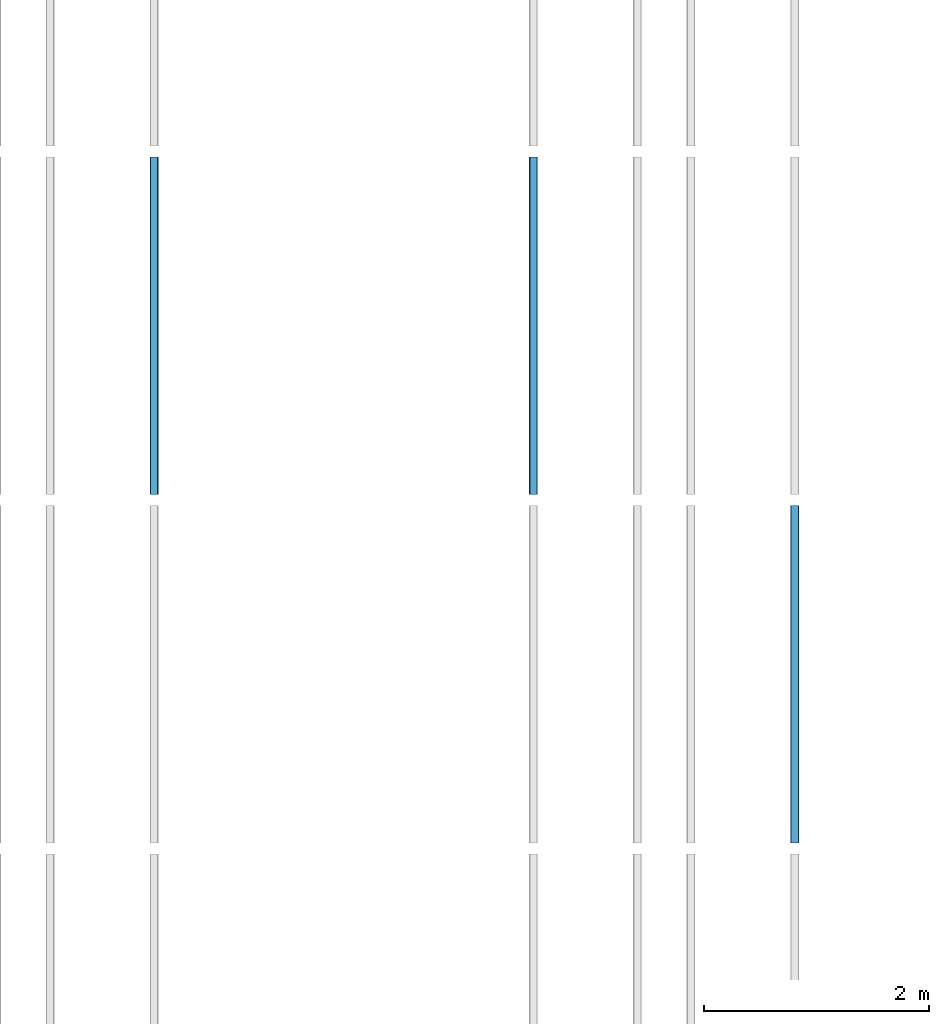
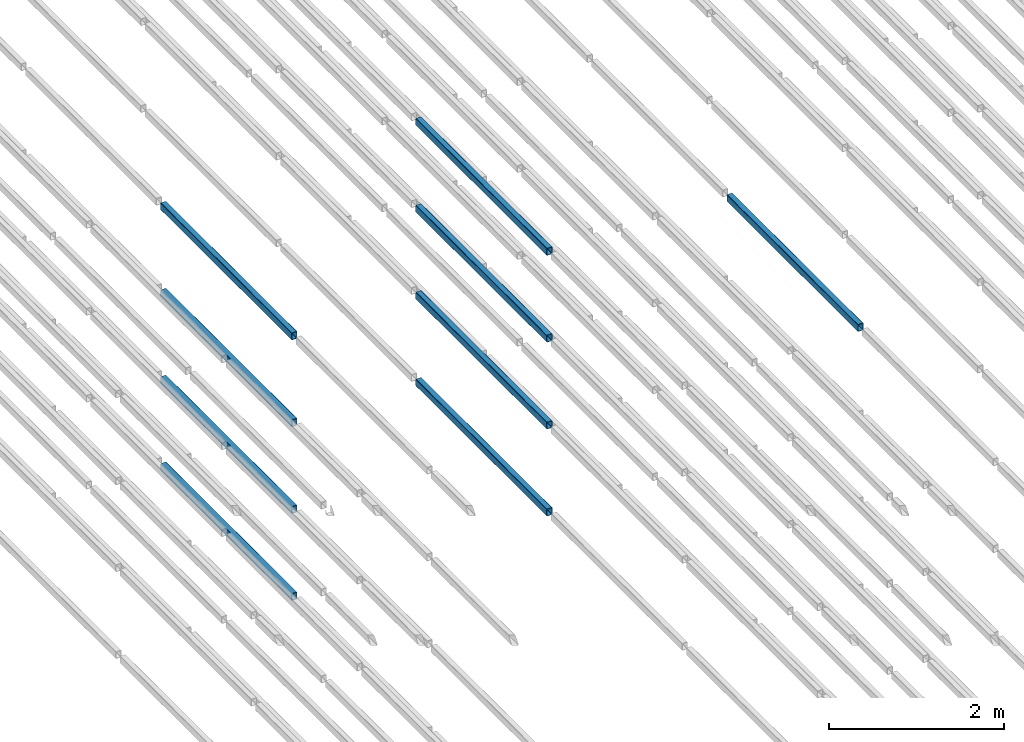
# One storey, part 54 of 290: 9 beams.
"""IFC2X3 building model written with IfcOpenShell, lengths in metres."""

from ifc_helpers import new_model, entity, si_unit, converted_unit, derived_unit, direction, frame, frame_2d, origin, place, context, subcontext, project, spatial, polyline, circle_curve, parameter, trimmed, segment, composite_curve, outline, extrude, material, type_object, element, save


model = new_model("IFC2X3")

# Units and contexts
model_context = context("Model", 3, precision=1e-05, world=origin(), true_north=direction((6.12303176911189e-17, 1.0)))
body_context = subcontext(model_context, "Body", "Model", "MODEL_VIEW")
ifc_project = project(units=[si_unit("LENGTHUNIT", "METRE"), si_unit("AREAUNIT", "SQUARE_METRE"), si_unit("VOLUMEUNIT", "CUBIC_METRE"), converted_unit("PLANEANGLEUNIT", "DEGREE", entity("IfcRatioMeasure", 0.0174532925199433), si_unit("PLANEANGLEUNIT", "RADIAN"), dimensions=[0, 0, 0, 0, 0, 0, 0]), si_unit("MASSUNIT", "GRAM", prefix="KILO"), derived_unit("MASSDENSITYUNIT", [(si_unit("MASSUNIT", "GRAM", prefix="KILO"), 1), (si_unit("LENGTHUNIT", "METRE"), -3)]), derived_unit("MOMENTOFINERTIAUNIT", [(si_unit("LENGTHUNIT", "METRE"), 4)]), si_unit("TIMEUNIT", "SECOND"), si_unit("FREQUENCYUNIT", "HERTZ"), si_unit("THERMODYNAMICTEMPERATUREUNIT", "DEGREE_CELSIUS"), derived_unit("THERMALTRANSMITTANCEUNIT", [(si_unit("MASSUNIT", "GRAM", prefix="KILO"), 1), (si_unit("THERMODYNAMICTEMPERATUREUNIT", "KELVIN"), -1), (si_unit("TIMEUNIT", "SECOND"), -3)]), derived_unit("VOLUMETRICFLOWRATEUNIT", [(si_unit("LENGTHUNIT", "METRE"), 3), (si_unit("TIMEUNIT", "SECOND"), -1)]), si_unit("ELECTRICCURRENTUNIT", "AMPERE"), si_unit("ELECTRICVOLTAGEUNIT", "VOLT"), si_unit("POWERUNIT", "WATT"), si_unit("FORCEUNIT", "NEWTON", prefix="KILO"), si_unit("ILLUMINANCEUNIT", "LUX"), si_unit("LUMINOUSFLUXUNIT", "LUMEN"), si_unit("LUMINOUSINTENSITYUNIT", "CANDELA"), derived_unit("USERDEFINED", [(si_unit("MASSUNIT", "GRAM", prefix="KILO"), -1), (si_unit("LENGTHUNIT", "METRE"), -2), (si_unit("TIMEUNIT", "SECOND"), 3), (si_unit("LUMINOUSFLUXUNIT", "LUMEN"), 1)]), derived_unit("LINEARVELOCITYUNIT", [(si_unit("LENGTHUNIT", "METRE"), 1), (si_unit("TIMEUNIT", "SECOND"), -1)]), si_unit("PRESSUREUNIT", "PASCAL"), derived_unit("USERDEFINED", [(si_unit("LENGTHUNIT", "METRE"), -2), (si_unit("MASSUNIT", "GRAM", prefix="KILO"), 1), (si_unit("TIMEUNIT", "SECOND"), -2)]), derived_unit("LINEARFORCEUNIT", [(si_unit("MASSUNIT", "GRAM", prefix="KILO"), 1), (si_unit("LENGTHUNIT", "METRE"), 1), (si_unit("TIMEUNIT", "SECOND"), -2), (si_unit("LENGTHUNIT", "METRE"), -1)]), derived_unit("PLANARFORCEUNIT", [(si_unit("MASSUNIT", "GRAM", prefix="KILO"), 1), (si_unit("LENGTHUNIT", "METRE"), 1), (si_unit("TIMEUNIT", "SECOND"), -2), (si_unit("LENGTHUNIT", "METRE"), -2)])], contexts=[model_context])

# Site, building, storey
site_placement = place(None, origin())
site = spatial("IfcSite", under=ifc_project, at=site_placement, Name="Default", CompositionType="ELEMENT")
building_placement = place(site_placement, origin())
building = spatial("IfcBuilding", under=site, at=building_placement, CompositionType="ELEMENT")
storey_placement = place(building_placement, frame((0.0, 0.0, 4.0)))
storey = spatial("IfcBuildingStorey", under=building, at=storey_placement, Name="01_OG", CompositionType="ELEMENT", Elevation=4.0)

# Beams
ifc_material = material(Name="Metall - Baustahl S235 blau")
beam_type = type_object("IfcBeamType", Name="RHS Träger (EN 10219-2):RHS 100 x 75 x 5", PredefinedType="NOTDEFINED")
beam_1_placement = place(storey_placement, frame((-188.465111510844, 33.348088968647, 2.445), z_axis=(0.0, 0.0, 1.0), x_axis=(0.0, 1.0, 0.0)))
element("IfcBeam", 1, at=beam_1_placement, inside=storey, type_object=beam_type, material=ifc_material, Name="RHS Träger (EN 10219-2):RHS 100 x 75 x 5", ObjectType="RHS Träger (EN 10219-2):RHS 100 x 75 x 5", context=body_context, shape_type="SweptSolid", body=[
    extrude(outline(composite_curve([segment(polyline([(-0.0399999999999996, -0.0374999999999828), (0.0399999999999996, -0.0374999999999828)]), True, "CONTINUOUS"), segment(trimmed(circle_curve(frame_2d((0.0399999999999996, -0.0274999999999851), x_axis=(0.0, 1.0)), 0.01), [parameter(180.0)], [parameter(270.0)], True, "PARAMETER"), True, "CONTINUOUS"), segment(polyline([(0.0500000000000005, -0.0274999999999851), (0.0500000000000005, 0.0274999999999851)]), True, "CONTINUOUS"), segment(trimmed(circle_curve(frame_2d((0.0399999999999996, 0.0274999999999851), x_axis=(0.0, 1.0)), 0.01), [parameter(270.0)], [parameter(4.07110999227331e-13)], True, "PARAMETER"), True, "CONTINUOUS"), segment(polyline([(0.0399999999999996, 0.0375000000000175), (-0.0399999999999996, 0.0375000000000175)]), True, "CONTINUOUS"), segment(trimmed(circle_curve(frame_2d((-0.0399999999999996, 0.0274999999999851), x_axis=(0.0, 1.0)), 0.01), [parameter(360.0)], [parameter(90.0000000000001)], True, "PARAMETER"), True, "CONTINUOUS"), segment(polyline([(-0.0499999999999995, 0.0274999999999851), (-0.0499999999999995, -0.0274999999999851)]), True, "CONTINUOUS"), segment(trimmed(circle_curve(frame_2d((-0.0399999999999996, -0.0274999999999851), x_axis=(0.0, 1.0)), 0.01), [parameter(90.0000000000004)], [parameter(180.0)], True, "PARAMETER"), True, "CONTINUOUS")], self_intersect=False), holes=[composite_curve([segment(trimmed(circle_curve(frame_2d((-0.0400000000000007, 0.0274999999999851), x_axis=(0.0, 1.0)), 0.005), [parameter(360.0)], [parameter(89.9999999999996)], True, "PARAMETER"), False, "CONTINUOUS"), segment(polyline([(-0.0400000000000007, 0.0325000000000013), (0.0399999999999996, 0.0325000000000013)]), True, "CONTINUOUS"), segment(trimmed(circle_curve(frame_2d((0.0399999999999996, 0.0274999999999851), x_axis=(0.0, 1.0)), 0.005), [parameter(270.0)], [parameter(0.0)], True, "PARAMETER"), False, "CONTINUOUS"), segment(polyline([(0.0449999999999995, 0.0274999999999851), (0.0449999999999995, -0.0274999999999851)]), True, "CONTINUOUS"), segment(trimmed(circle_curve(frame_2d((0.0399999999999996, -0.0274999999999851), x_axis=(0.0, 1.0)), 0.005), [parameter(180.0)], [parameter(269.999999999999)], True, "PARAMETER"), False, "CONTINUOUS"), segment(polyline([(0.0399999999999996, -0.0325000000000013), (-0.0400000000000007, -0.0325000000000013)]), True, "CONTINUOUS"), segment(trimmed(circle_curve(frame_2d((-0.0400000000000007, -0.0274999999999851), x_axis=(0.0, 1.0)), 0.005), [parameter(90.0000000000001)], [parameter(180.0)], True, "PARAMETER"), False, "CONTINUOUS"), segment(polyline([(-0.0450000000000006, -0.0274999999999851), (-0.0450000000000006, 0.0274999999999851)]), True, "CONTINUOUS")], self_intersect=False)]), frame((0.000100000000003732, -0.0375000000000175, -0.0500000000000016), z_axis=(1.0, 0.0, 0.0), x_axis=(0.0, 0.0, -1.0)), (0.0, 0.0, 1.0), 2.9998),
])
beam_2_placement = place(storey_placement, frame((-194.165111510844, 36.448088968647, -1.2), z_axis=(0.0, 0.0, 1.0), x_axis=(0.0, 1.0, 0.0)))
element("IfcBeam", 2, at=beam_2_placement, inside=storey, type_object=beam_type, material=ifc_material, Name="RHS Träger (EN 10219-2):RHS 100 x 75 x 5", ObjectType="RHS Träger (EN 10219-2):RHS 100 x 75 x 5", context=body_context, shape_type="SweptSolid", body=[
    extrude(outline(composite_curve([segment(polyline([(-0.0400000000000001, -0.0374999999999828), (0.0400000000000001, -0.0374999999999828)]), True, "CONTINUOUS"), segment(trimmed(circle_curve(frame_2d((0.0400000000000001, -0.0274999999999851), x_axis=(0.0, 1.0)), 0.01), [parameter(180.0)], [parameter(270.0)], True, "PARAMETER"), True, "CONTINUOUS"), segment(polyline([(0.05, -0.0274999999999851), (0.05, 0.0274999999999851)]), True, "CONTINUOUS"), segment(trimmed(circle_curve(frame_2d((0.0400000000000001, 0.0274999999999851), x_axis=(0.0, 1.0)), 0.01), [parameter(270.0)], [parameter(4.07110999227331e-13)], True, "PARAMETER"), True, "CONTINUOUS"), segment(polyline([(0.0400000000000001, 0.0375000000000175), (-0.0400000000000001, 0.0375000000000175)]), True, "CONTINUOUS"), segment(trimmed(circle_curve(frame_2d((-0.0400000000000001, 0.0274999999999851), x_axis=(0.0, 1.0)), 0.01), [parameter(360.0)], [parameter(90.0000000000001)], True, "PARAMETER"), True, "CONTINUOUS"), segment(polyline([(-0.05, 0.0274999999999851), (-0.05, -0.0274999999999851)]), True, "CONTINUOUS"), segment(trimmed(circle_curve(frame_2d((-0.0400000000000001, -0.0274999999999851), x_axis=(0.0, 1.0)), 0.01), [parameter(90.0000000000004)], [parameter(180.0)], True, "PARAMETER"), True, "CONTINUOUS")], self_intersect=False), holes=[composite_curve([segment(trimmed(circle_curve(frame_2d((-0.0400000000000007, 0.0274999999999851), x_axis=(0.0, 1.0)), 0.005), [parameter(360.0)], [parameter(89.9999999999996)], True, "PARAMETER"), False, "CONTINUOUS"), segment(polyline([(-0.0400000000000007, 0.0325000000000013), (0.039999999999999, 0.0325000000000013)]), True, "CONTINUOUS"), segment(trimmed(circle_curve(frame_2d((0.039999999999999, 0.0274999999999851), x_axis=(0.0, 1.0)), 0.005), [parameter(270.0)], [parameter(0.0)], True, "PARAMETER"), False, "CONTINUOUS"), segment(polyline([(0.044999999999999, 0.0274999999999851), (0.044999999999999, -0.0274999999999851)]), True, "CONTINUOUS"), segment(trimmed(circle_curve(frame_2d((0.039999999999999, -0.0274999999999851), x_axis=(0.0, 1.0)), 0.005), [parameter(180.0)], [parameter(269.999999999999)], True, "PARAMETER"), False, "CONTINUOUS"), segment(polyline([(0.039999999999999, -0.0325000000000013), (-0.0400000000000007, -0.0325000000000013)]), True, "CONTINUOUS"), segment(trimmed(circle_curve(frame_2d((-0.0400000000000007, -0.0274999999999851), x_axis=(0.0, 1.0)), 0.005), [parameter(90.0000000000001)], [parameter(180.0)], True, "PARAMETER"), False, "CONTINUOUS"), segment(polyline([(-0.0450000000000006, -0.0274999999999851), (-0.0450000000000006, 0.0274999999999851)]), True, "CONTINUOUS")], self_intersect=False)]), frame((0.000100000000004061, -0.0375000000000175, -0.0500000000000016), z_axis=(1.0, 0.0, 0.0), x_axis=(0.0, 0.0, -1.0)), (0.0, 0.0, 1.0), 2.9998),
])
beam_3_placement = place(storey_placement, frame((-194.165111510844, 36.448088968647, 0.0150000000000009), z_axis=(0.0, 0.0, 1.0), x_axis=(0.0, 1.0, 0.0)))
element("IfcBeam", 3, at=beam_3_placement, inside=storey, type_object=beam_type, material=ifc_material, Name="RHS Träger (EN 10219-2):RHS 100 x 75 x 5", ObjectType="RHS Träger (EN 10219-2):RHS 100 x 75 x 5", context=body_context, shape_type="SweptSolid", body=[
    extrude(outline(composite_curve([segment(polyline([(-0.0400000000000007, -0.0374999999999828), (0.0399999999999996, -0.0374999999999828)]), True, "CONTINUOUS"), segment(trimmed(circle_curve(frame_2d((0.0399999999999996, -0.0274999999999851), x_axis=(0.0, 1.0)), 0.01), [parameter(180.0)], [parameter(270.0)], True, "PARAMETER"), True, "CONTINUOUS"), segment(polyline([(0.0499999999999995, -0.0274999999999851), (0.0499999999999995, 0.0274999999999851)]), True, "CONTINUOUS"), segment(trimmed(circle_curve(frame_2d((0.0399999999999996, 0.0274999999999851), x_axis=(0.0, 1.0)), 0.01), [parameter(270.0)], [parameter(4.07110999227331e-13)], True, "PARAMETER"), True, "CONTINUOUS"), segment(polyline([(0.0399999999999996, 0.0375000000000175), (-0.0400000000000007, 0.0375000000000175)]), True, "CONTINUOUS"), segment(trimmed(circle_curve(frame_2d((-0.0400000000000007, 0.0274999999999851), x_axis=(0.0, 1.0)), 0.01), [parameter(360.0)], [parameter(90.0000000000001)], True, "PARAMETER"), True, "CONTINUOUS"), segment(polyline([(-0.0500000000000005, 0.0274999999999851), (-0.0500000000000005, -0.0274999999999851)]), True, "CONTINUOUS"), segment(trimmed(circle_curve(frame_2d((-0.0400000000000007, -0.0274999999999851), x_axis=(0.0, 1.0)), 0.01), [parameter(90.0000000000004)], [parameter(180.0)], True, "PARAMETER"), True, "CONTINUOUS")], self_intersect=False), holes=[composite_curve([segment(trimmed(circle_curve(frame_2d((-0.0400000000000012, 0.0274999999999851), x_axis=(0.0, 1.0)), 0.005), [parameter(360.0)], [parameter(89.9999999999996)], True, "PARAMETER"), False, "CONTINUOUS"), segment(polyline([(-0.0400000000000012, 0.0325000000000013), (0.0399999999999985, 0.0325000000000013)]), True, "CONTINUOUS"), segment(trimmed(circle_curve(frame_2d((0.0399999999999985, 0.0274999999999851), x_axis=(0.0, 1.0)), 0.005), [parameter(270.0)], [parameter(0.0)], True, "PARAMETER"), False, "CONTINUOUS"), segment(polyline([(0.0449999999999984, 0.0274999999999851), (0.0449999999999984, -0.0274999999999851)]), True, "CONTINUOUS"), segment(trimmed(circle_curve(frame_2d((0.0399999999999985, -0.0274999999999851), x_axis=(0.0, 1.0)), 0.005), [parameter(180.0)], [parameter(269.999999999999)], True, "PARAMETER"), False, "CONTINUOUS"), segment(polyline([(0.0399999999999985, -0.0325000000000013), (-0.0400000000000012, -0.0325000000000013)]), True, "CONTINUOUS"), segment(trimmed(circle_curve(frame_2d((-0.0400000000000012, -0.0274999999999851), x_axis=(0.0, 1.0)), 0.005), [parameter(90.0000000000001)], [parameter(180.0)], True, "PARAMETER"), False, "CONTINUOUS"), segment(polyline([(-0.0450000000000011, -0.0274999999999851), (-0.0450000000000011, 0.0274999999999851)]), True, "CONTINUOUS")], self_intersect=False)]), frame((0.000100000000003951, -0.0375000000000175, -0.0500000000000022), z_axis=(1.0, 0.0, 0.0), x_axis=(0.0, 0.0, -1.0)), (0.0, 0.0, 1.0), 2.9998),
])
beam_4_placement = place(storey_placement, frame((-194.165111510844, 36.448088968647, 1.23), z_axis=(0.0, 0.0, 1.0), x_axis=(0.0, 1.0, 0.0)))
element("IfcBeam", 4, at=beam_4_placement, inside=storey, type_object=beam_type, material=ifc_material, Name="RHS Träger (EN 10219-2):RHS 100 x 75 x 5", ObjectType="RHS Träger (EN 10219-2):RHS 100 x 75 x 5", context=body_context, shape_type="SweptSolid", body=[
    extrude(outline(composite_curve([segment(polyline([(-0.0399999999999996, -0.0374999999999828), (0.0399999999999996, -0.0374999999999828)]), True, "CONTINUOUS"), segment(trimmed(circle_curve(frame_2d((0.0399999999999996, -0.0274999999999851), x_axis=(0.0, 1.0)), 0.01), [parameter(180.0)], [parameter(270.0)], True, "PARAMETER"), True, "CONTINUOUS"), segment(polyline([(0.0500000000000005, -0.0274999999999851), (0.0500000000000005, 0.0274999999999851)]), True, "CONTINUOUS"), segment(trimmed(circle_curve(frame_2d((0.0399999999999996, 0.0274999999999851), x_axis=(0.0, 1.0)), 0.01), [parameter(270.0)], [parameter(4.07110999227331e-13)], True, "PARAMETER"), True, "CONTINUOUS"), segment(polyline([(0.0399999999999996, 0.0375000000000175), (-0.0399999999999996, 0.0375000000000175)]), True, "CONTINUOUS"), segment(trimmed(circle_curve(frame_2d((-0.0399999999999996, 0.0274999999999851), x_axis=(0.0, 1.0)), 0.01), [parameter(360.0)], [parameter(90.0000000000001)], True, "PARAMETER"), True, "CONTINUOUS"), segment(polyline([(-0.0499999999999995, 0.0274999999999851), (-0.0499999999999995, -0.0274999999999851)]), True, "CONTINUOUS"), segment(trimmed(circle_curve(frame_2d((-0.0399999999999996, -0.0274999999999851), x_axis=(0.0, 1.0)), 0.01), [parameter(90.0000000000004)], [parameter(180.0)], True, "PARAMETER"), True, "CONTINUOUS")], self_intersect=False), holes=[composite_curve([segment(trimmed(circle_curve(frame_2d((-0.0400000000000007, 0.0274999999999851), x_axis=(0.0, 1.0)), 0.005), [parameter(360.0)], [parameter(89.9999999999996)], True, "PARAMETER"), False, "CONTINUOUS"), segment(polyline([(-0.0400000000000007, 0.0325000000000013), (0.0399999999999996, 0.0325000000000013)]), True, "CONTINUOUS"), segment(trimmed(circle_curve(frame_2d((0.0399999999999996, 0.0274999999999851), x_axis=(0.0, 1.0)), 0.005), [parameter(270.0)], [parameter(0.0)], True, "PARAMETER"), False, "CONTINUOUS"), segment(polyline([(0.0449999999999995, 0.0274999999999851), (0.0449999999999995, -0.0274999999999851)]), True, "CONTINUOUS"), segment(trimmed(circle_curve(frame_2d((0.0399999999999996, -0.0274999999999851), x_axis=(0.0, 1.0)), 0.005), [parameter(180.0)], [parameter(269.999999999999)], True, "PARAMETER"), False, "CONTINUOUS"), segment(polyline([(0.0399999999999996, -0.0325000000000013), (-0.0400000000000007, -0.0325000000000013)]), True, "CONTINUOUS"), segment(trimmed(circle_curve(frame_2d((-0.0400000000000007, -0.0274999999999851), x_axis=(0.0, 1.0)), 0.005), [parameter(90.0000000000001)], [parameter(180.0)], True, "PARAMETER"), False, "CONTINUOUS"), segment(polyline([(-0.0450000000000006, -0.0274999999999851), (-0.0450000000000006, 0.0274999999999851)]), True, "CONTINUOUS")], self_intersect=False)]), frame((0.000100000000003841, -0.0375000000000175, -0.0500000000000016), z_axis=(1.0, 0.0, 0.0), x_axis=(0.0, 0.0, -1.0)), (0.0, 0.0, 1.0), 2.9998),
])
beam_5_placement = place(storey_placement, frame((-194.165111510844, 36.448088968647, 2.445), z_axis=(0.0, 0.0, 1.0), x_axis=(0.0, 1.0, 0.0)))
element("IfcBeam", 5, at=beam_5_placement, inside=storey, type_object=beam_type, material=ifc_material, Name="RHS Träger (EN 10219-2):RHS 100 x 75 x 5", ObjectType="RHS Träger (EN 10219-2):RHS 100 x 75 x 5", context=body_context, shape_type="SweptSolid", body=[
    extrude(outline(composite_curve([segment(polyline([(-0.0399999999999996, -0.0374999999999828), (0.0399999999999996, -0.0374999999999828)]), True, "CONTINUOUS"), segment(trimmed(circle_curve(frame_2d((0.0399999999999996, -0.0274999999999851), x_axis=(0.0, 1.0)), 0.01), [parameter(180.0)], [parameter(270.0)], True, "PARAMETER"), True, "CONTINUOUS"), segment(polyline([(0.0500000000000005, -0.0274999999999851), (0.0500000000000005, 0.0274999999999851)]), True, "CONTINUOUS"), segment(trimmed(circle_curve(frame_2d((0.0399999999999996, 0.0274999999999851), x_axis=(0.0, 1.0)), 0.01), [parameter(270.0)], [parameter(4.07110999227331e-13)], True, "PARAMETER"), True, "CONTINUOUS"), segment(polyline([(0.0399999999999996, 0.0375000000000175), (-0.0399999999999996, 0.0375000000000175)]), True, "CONTINUOUS"), segment(trimmed(circle_curve(frame_2d((-0.0399999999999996, 0.0274999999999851), x_axis=(0.0, 1.0)), 0.01), [parameter(360.0)], [parameter(90.0000000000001)], True, "PARAMETER"), True, "CONTINUOUS"), segment(polyline([(-0.0499999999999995, 0.0274999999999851), (-0.0499999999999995, -0.0274999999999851)]), True, "CONTINUOUS"), segment(trimmed(circle_curve(frame_2d((-0.0399999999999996, -0.0274999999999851), x_axis=(0.0, 1.0)), 0.01), [parameter(90.0000000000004)], [parameter(180.0)], True, "PARAMETER"), True, "CONTINUOUS")], self_intersect=False), holes=[composite_curve([segment(trimmed(circle_curve(frame_2d((-0.0400000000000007, 0.0274999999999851), x_axis=(0.0, 1.0)), 0.005), [parameter(360.0)], [parameter(89.9999999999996)], True, "PARAMETER"), False, "CONTINUOUS"), segment(polyline([(-0.0400000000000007, 0.0325000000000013), (0.0399999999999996, 0.0325000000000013)]), True, "CONTINUOUS"), segment(trimmed(circle_curve(frame_2d((0.0399999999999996, 0.0274999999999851), x_axis=(0.0, 1.0)), 0.005), [parameter(270.0)], [parameter(0.0)], True, "PARAMETER"), False, "CONTINUOUS"), segment(polyline([(0.0449999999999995, 0.0274999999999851), (0.0449999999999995, -0.0274999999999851)]), True, "CONTINUOUS"), segment(trimmed(circle_curve(frame_2d((0.0399999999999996, -0.0274999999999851), x_axis=(0.0, 1.0)), 0.005), [parameter(180.0)], [parameter(269.999999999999)], True, "PARAMETER"), False, "CONTINUOUS"), segment(polyline([(0.0399999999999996, -0.0325000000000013), (-0.0400000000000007, -0.0325000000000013)]), True, "CONTINUOUS"), segment(trimmed(circle_curve(frame_2d((-0.0400000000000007, -0.0274999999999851), x_axis=(0.0, 1.0)), 0.005), [parameter(90.0000000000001)], [parameter(180.0)], True, "PARAMETER"), False, "CONTINUOUS"), segment(polyline([(-0.0450000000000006, -0.0274999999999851), (-0.0450000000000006, 0.0274999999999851)]), True, "CONTINUOUS")], self_intersect=False)]), frame((0.000100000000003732, -0.0375000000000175, -0.0500000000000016), z_axis=(1.0, 0.0, 0.0), x_axis=(0.0, 0.0, -1.0)), (0.0, 0.0, 1.0), 2.9998),
])
beam_6_placement = place(storey_placement, frame((-190.715111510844, 36.448088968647, -1.2), z_axis=(0.0, 0.0, 1.0), x_axis=(0.0, 1.0, 0.0)))
element("IfcBeam", 6, at=beam_6_placement, inside=storey, type_object=beam_type, material=ifc_material, Name="RHS Träger (EN 10219-2):RHS 100 x 75 x 5", ObjectType="RHS Träger (EN 10219-2):RHS 100 x 75 x 5", context=body_context, shape_type="SweptSolid", body=[
    extrude(outline(composite_curve([segment(trimmed(circle_curve(frame_2d((-0.0274999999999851, -0.0400000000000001), x_axis=(1.0, 0.0)), 0.01), [parameter(180.0)], [parameter(270.0)], True, "PARAMETER"), True, "CONTINUOUS"), segment(polyline([(-0.0274999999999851, -0.05), (0.0274999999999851, -0.05)]), True, "CONTINUOUS"), segment(trimmed(circle_curve(frame_2d((0.0274999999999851, -0.0400000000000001), x_axis=(1.0, 0.0)), 0.01), [parameter(270.0)], [parameter(5.08888749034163e-14)], True, "PARAMETER"), True, "CONTINUOUS"), segment(polyline([(0.0375000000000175, -0.0400000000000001), (0.0375000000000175, 0.0400000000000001)]), True, "CONTINUOUS"), segment(trimmed(circle_curve(frame_2d((0.0274999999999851, 0.0400000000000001), x_axis=(1.0, 0.0)), 0.01), [parameter(360.0)], [parameter(89.9999999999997)], True, "PARAMETER"), True, "CONTINUOUS"), segment(polyline([(0.0274999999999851, 0.05), (-0.0274999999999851, 0.05)]), True, "CONTINUOUS"), segment(trimmed(circle_curve(frame_2d((-0.0274999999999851, 0.0400000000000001), x_axis=(1.0, 0.0)), 0.01), [parameter(90.0000000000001)], [parameter(180.0)], True, "PARAMETER"), True, "CONTINUOUS"), segment(polyline([(-0.0374999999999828, 0.0400000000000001), (-0.0374999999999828, -0.0400000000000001)]), True, "CONTINUOUS")], self_intersect=False), holes=[composite_curve([segment(polyline([(0.0274999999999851, -0.0450000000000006), (-0.0274999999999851, -0.0450000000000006)]), True, "CONTINUOUS"), segment(trimmed(circle_curve(frame_2d((-0.0274999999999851, -0.0400000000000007), x_axis=(1.0, 0.0)), 0.005), [parameter(180.0)], [parameter(270.0)], True, "PARAMETER"), False, "CONTINUOUS"), segment(polyline([(-0.0325000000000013, -0.0400000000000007), (-0.0325000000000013, 0.039999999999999)]), True, "CONTINUOUS"), segment(trimmed(circle_curve(frame_2d((-0.0274999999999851, 0.039999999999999), x_axis=(1.0, 0.0)), 0.005), [parameter(90.0000000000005)], [parameter(180.0)], True, "PARAMETER"), False, "CONTINUOUS"), segment(polyline([(-0.0274999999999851, 0.044999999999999), (0.0274999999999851, 0.044999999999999)]), True, "CONTINUOUS"), segment(trimmed(circle_curve(frame_2d((0.0274999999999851, 0.039999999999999), x_axis=(1.0, 0.0)), 0.005), [parameter(0.0)], [parameter(90.0000000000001)], True, "PARAMETER"), False, "CONTINUOUS"), segment(polyline([(0.0325000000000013, 0.039999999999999), (0.0325000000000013, -0.0400000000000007)]), True, "CONTINUOUS"), segment(trimmed(circle_curve(frame_2d((0.0274999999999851, -0.0400000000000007), x_axis=(1.0, 0.0)), 0.005), [parameter(270.0)], [parameter(4.07110999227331e-13)], True, "PARAMETER"), False, "CONTINUOUS")], self_intersect=False)]), frame((9.99999999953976e-05, 0.0375000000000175, -0.0500000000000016), z_axis=(1.0, 0.0, 0.0), x_axis=(0.0, -1.0, 0.0)), (0.0, 0.0, 1.0), 2.9998),
])
beam_7_placement = place(storey_placement, frame((-190.715111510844, 36.448088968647, 0.0150000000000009), z_axis=(0.0, 0.0, 1.0), x_axis=(0.0, 1.0, 0.0)))
element("IfcBeam", 7, at=beam_7_placement, inside=storey, type_object=beam_type, material=ifc_material, Name="RHS Träger (EN 10219-2):RHS 100 x 75 x 5", ObjectType="RHS Träger (EN 10219-2):RHS 100 x 75 x 5", context=body_context, shape_type="SweptSolid", body=[
    extrude(outline(composite_curve([segment(trimmed(circle_curve(frame_2d((-0.0274999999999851, -0.0400000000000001), x_axis=(1.0, 0.0)), 0.01), [parameter(180.0)], [parameter(270.0)], True, "PARAMETER"), True, "CONTINUOUS"), segment(polyline([(-0.0274999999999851, -0.05), (0.0274999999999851, -0.05)]), True, "CONTINUOUS"), segment(trimmed(circle_curve(frame_2d((0.0274999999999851, -0.0400000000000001), x_axis=(1.0, 0.0)), 0.01), [parameter(270.0)], [parameter(5.08888749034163e-14)], True, "PARAMETER"), True, "CONTINUOUS"), segment(polyline([(0.0375000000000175, -0.0400000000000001), (0.0375000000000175, 0.0400000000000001)]), True, "CONTINUOUS"), segment(trimmed(circle_curve(frame_2d((0.0274999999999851, 0.0400000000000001), x_axis=(1.0, 0.0)), 0.01), [parameter(360.0)], [parameter(89.9999999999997)], True, "PARAMETER"), True, "CONTINUOUS"), segment(polyline([(0.0274999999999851, 0.05), (-0.0274999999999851, 0.05)]), True, "CONTINUOUS"), segment(trimmed(circle_curve(frame_2d((-0.0274999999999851, 0.0400000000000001), x_axis=(1.0, 0.0)), 0.01), [parameter(90.0000000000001)], [parameter(180.0)], True, "PARAMETER"), True, "CONTINUOUS"), segment(polyline([(-0.0374999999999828, 0.0400000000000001), (-0.0374999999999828, -0.0400000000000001)]), True, "CONTINUOUS")], self_intersect=False), holes=[composite_curve([segment(polyline([(0.0274999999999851, -0.0450000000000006), (-0.0274999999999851, -0.0450000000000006)]), True, "CONTINUOUS"), segment(trimmed(circle_curve(frame_2d((-0.0274999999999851, -0.0400000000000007), x_axis=(1.0, 0.0)), 0.005), [parameter(180.0)], [parameter(270.0)], True, "PARAMETER"), False, "CONTINUOUS"), segment(polyline([(-0.0325000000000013, -0.0400000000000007), (-0.0325000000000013, 0.039999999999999)]), True, "CONTINUOUS"), segment(trimmed(circle_curve(frame_2d((-0.0274999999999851, 0.039999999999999), x_axis=(1.0, 0.0)), 0.005), [parameter(90.0000000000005)], [parameter(180.0)], True, "PARAMETER"), False, "CONTINUOUS"), segment(polyline([(-0.0274999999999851, 0.044999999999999), (0.0274999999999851, 0.044999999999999)]), True, "CONTINUOUS"), segment(trimmed(circle_curve(frame_2d((0.0274999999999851, 0.039999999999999), x_axis=(1.0, 0.0)), 0.005), [parameter(0.0)], [parameter(90.0000000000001)], True, "PARAMETER"), False, "CONTINUOUS"), segment(polyline([(0.0325000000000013, 0.039999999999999), (0.0325000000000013, -0.0400000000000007)]), True, "CONTINUOUS"), segment(trimmed(circle_curve(frame_2d((0.0274999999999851, -0.0400000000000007), x_axis=(1.0, 0.0)), 0.005), [parameter(270.0)], [parameter(4.07110999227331e-13)], True, "PARAMETER"), False, "CONTINUOUS")], self_intersect=False)]), frame((9.9999999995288e-05, 0.0375000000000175, -0.0500000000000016), z_axis=(1.0, 0.0, 0.0), x_axis=(0.0, -1.0, 0.0)), (0.0, 0.0, 1.0), 2.9998),
])
beam_8_placement = place(storey_placement, frame((-190.715111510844, 36.448088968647, 1.23), z_axis=(0.0, 0.0, 1.0), x_axis=(0.0, 1.0, 0.0)))
element("IfcBeam", 8, at=beam_8_placement, inside=storey, type_object=beam_type, material=ifc_material, Name="RHS Träger (EN 10219-2):RHS 100 x 75 x 5", ObjectType="RHS Träger (EN 10219-2):RHS 100 x 75 x 5", context=body_context, shape_type="SweptSolid", body=[
    extrude(outline(composite_curve([segment(trimmed(circle_curve(frame_2d((-0.0274999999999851, -0.0399999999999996), x_axis=(1.0, 0.0)), 0.01), [parameter(180.0)], [parameter(270.0)], True, "PARAMETER"), True, "CONTINUOUS"), segment(polyline([(-0.0274999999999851, -0.0499999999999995), (0.0274999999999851, -0.0499999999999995)]), True, "CONTINUOUS"), segment(trimmed(circle_curve(frame_2d((0.0274999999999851, -0.0399999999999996), x_axis=(1.0, 0.0)), 0.01), [parameter(270.0)], [parameter(5.08888749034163e-14)], True, "PARAMETER"), True, "CONTINUOUS"), segment(polyline([(0.0375000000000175, -0.0399999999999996), (0.0375000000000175, 0.0399999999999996)]), True, "CONTINUOUS"), segment(trimmed(circle_curve(frame_2d((0.0274999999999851, 0.0399999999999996), x_axis=(1.0, 0.0)), 0.01), [parameter(360.0)], [parameter(89.9999999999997)], True, "PARAMETER"), True, "CONTINUOUS"), segment(polyline([(0.0274999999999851, 0.0500000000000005), (-0.0274999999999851, 0.0500000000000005)]), True, "CONTINUOUS"), segment(trimmed(circle_curve(frame_2d((-0.0274999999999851, 0.0399999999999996), x_axis=(1.0, 0.0)), 0.01), [parameter(90.0000000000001)], [parameter(180.0)], True, "PARAMETER"), True, "CONTINUOUS"), segment(polyline([(-0.0374999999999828, 0.0399999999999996), (-0.0374999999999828, -0.0399999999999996)]), True, "CONTINUOUS")], self_intersect=False), holes=[composite_curve([segment(polyline([(0.0274999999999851, -0.0450000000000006), (-0.0274999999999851, -0.0450000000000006)]), True, "CONTINUOUS"), segment(trimmed(circle_curve(frame_2d((-0.0274999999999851, -0.0400000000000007), x_axis=(1.0, 0.0)), 0.005), [parameter(180.0)], [parameter(270.0)], True, "PARAMETER"), False, "CONTINUOUS"), segment(polyline([(-0.0325000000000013, -0.0400000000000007), (-0.0325000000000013, 0.0399999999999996)]), True, "CONTINUOUS"), segment(trimmed(circle_curve(frame_2d((-0.0274999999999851, 0.0399999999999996), x_axis=(1.0, 0.0)), 0.005), [parameter(90.0000000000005)], [parameter(180.0)], True, "PARAMETER"), False, "CONTINUOUS"), segment(polyline([(-0.0274999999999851, 0.0449999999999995), (0.0274999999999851, 0.0449999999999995)]), True, "CONTINUOUS"), segment(trimmed(circle_curve(frame_2d((0.0274999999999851, 0.0399999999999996), x_axis=(1.0, 0.0)), 0.005), [parameter(0.0)], [parameter(90.0000000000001)], True, "PARAMETER"), False, "CONTINUOUS"), segment(polyline([(0.0325000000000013, 0.0399999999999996), (0.0325000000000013, -0.0400000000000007)]), True, "CONTINUOUS"), segment(trimmed(circle_curve(frame_2d((0.0274999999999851, -0.0400000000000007), x_axis=(1.0, 0.0)), 0.005), [parameter(270.0)], [parameter(4.07110999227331e-13)], True, "PARAMETER"), False, "CONTINUOUS")], self_intersect=False)]), frame((9.99999999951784e-05, 0.0375000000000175, -0.0500000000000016), z_axis=(1.0, 0.0, 0.0), x_axis=(0.0, -1.0, 0.0)), (0.0, 0.0, 1.0), 2.9998),
])
beam_9_placement = place(storey_placement, frame((-190.715111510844, 36.448088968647, 2.445), z_axis=(0.0, 0.0, 1.0), x_axis=(0.0, 1.0, 0.0)))
element("IfcBeam", 9, at=beam_9_placement, inside=storey, type_object=beam_type, material=ifc_material, Name="RHS Träger (EN 10219-2):RHS 100 x 75 x 5", ObjectType="RHS Träger (EN 10219-2):RHS 100 x 75 x 5", context=body_context, shape_type="SweptSolid", body=[
    extrude(outline(composite_curve([segment(trimmed(circle_curve(frame_2d((-0.0274999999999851, -0.0399999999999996), x_axis=(1.0, 0.0)), 0.01), [parameter(180.0)], [parameter(270.0)], True, "PARAMETER"), True, "CONTINUOUS"), segment(polyline([(-0.0274999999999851, -0.0499999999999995), (0.0274999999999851, -0.0499999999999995)]), True, "CONTINUOUS"), segment(trimmed(circle_curve(frame_2d((0.0274999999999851, -0.0399999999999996), x_axis=(1.0, 0.0)), 0.01), [parameter(270.0)], [parameter(5.08888749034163e-14)], True, "PARAMETER"), True, "CONTINUOUS"), segment(polyline([(0.0375000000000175, -0.0399999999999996), (0.0375000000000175, 0.0399999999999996)]), True, "CONTINUOUS"), segment(trimmed(circle_curve(frame_2d((0.0274999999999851, 0.0399999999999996), x_axis=(1.0, 0.0)), 0.01), [parameter(360.0)], [parameter(89.9999999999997)], True, "PARAMETER"), True, "CONTINUOUS"), segment(polyline([(0.0274999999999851, 0.0500000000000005), (-0.0274999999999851, 0.0500000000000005)]), True, "CONTINUOUS"), segment(trimmed(circle_curve(frame_2d((-0.0274999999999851, 0.0399999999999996), x_axis=(1.0, 0.0)), 0.01), [parameter(90.0000000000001)], [parameter(180.0)], True, "PARAMETER"), True, "CONTINUOUS"), segment(polyline([(-0.0374999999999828, 0.0399999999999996), (-0.0374999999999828, -0.0399999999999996)]), True, "CONTINUOUS")], self_intersect=False), holes=[composite_curve([segment(polyline([(0.0274999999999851, -0.0450000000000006), (-0.0274999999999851, -0.0450000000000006)]), True, "CONTINUOUS"), segment(trimmed(circle_curve(frame_2d((-0.0274999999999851, -0.0400000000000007), x_axis=(1.0, 0.0)), 0.005), [parameter(180.0)], [parameter(270.0)], True, "PARAMETER"), False, "CONTINUOUS"), segment(polyline([(-0.0325000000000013, -0.0400000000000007), (-0.0325000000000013, 0.0399999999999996)]), True, "CONTINUOUS"), segment(trimmed(circle_curve(frame_2d((-0.0274999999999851, 0.0399999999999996), x_axis=(1.0, 0.0)), 0.005), [parameter(90.0000000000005)], [parameter(180.0)], True, "PARAMETER"), False, "CONTINUOUS"), segment(polyline([(-0.0274999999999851, 0.0449999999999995), (0.0274999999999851, 0.0449999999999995)]), True, "CONTINUOUS"), segment(trimmed(circle_curve(frame_2d((0.0274999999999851, 0.0399999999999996), x_axis=(1.0, 0.0)), 0.005), [parameter(0.0)], [parameter(90.0000000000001)], True, "PARAMETER"), False, "CONTINUOUS"), segment(polyline([(0.0325000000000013, 0.0399999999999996), (0.0325000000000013, -0.0400000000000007)]), True, "CONTINUOUS"), segment(trimmed(circle_curve(frame_2d((0.0274999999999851, -0.0400000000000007), x_axis=(1.0, 0.0)), 0.005), [parameter(270.0)], [parameter(4.07110999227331e-13)], True, "PARAMETER"), False, "CONTINUOUS")], self_intersect=False)]), frame((9.99999999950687e-05, 0.0375000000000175, -0.0500000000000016), z_axis=(1.0, 0.0, 0.0), x_axis=(0.0, -1.0, 0.0)), (0.0, 0.0, 1.0), 2.9998),
])

save(model, "model.ifc")
